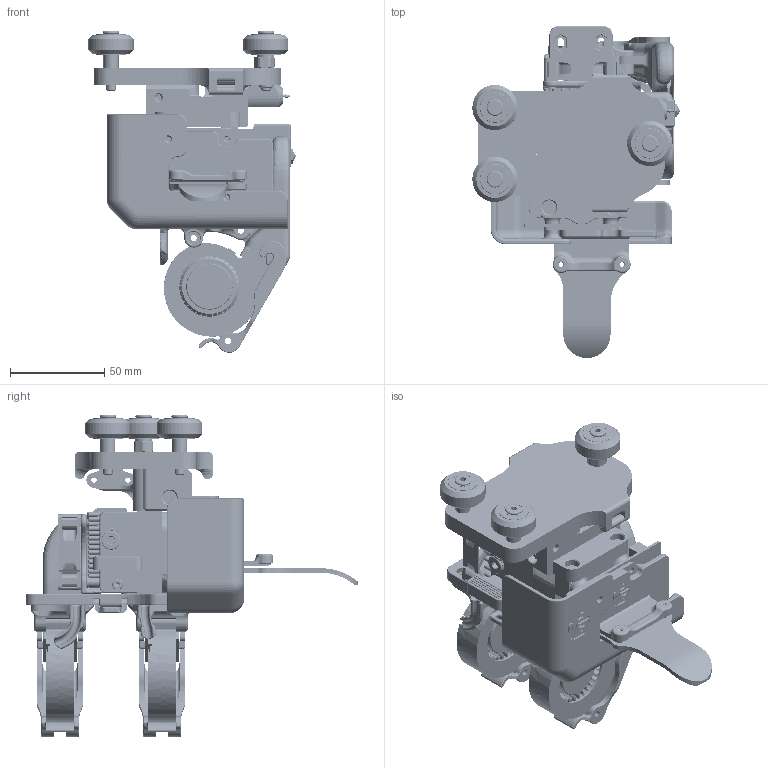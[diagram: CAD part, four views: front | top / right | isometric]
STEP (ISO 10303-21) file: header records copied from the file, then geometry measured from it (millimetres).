
FILE_DESCRIPTION(('CATIA V5 STEP Exchange'),'2;1');
FILE_NAME('E:\Dropbox\3D Printer Fan Duct Designs\1.) Artillery Sidewinder X1\3D Models\5015 Double Ducts\HEMERA MATRIX\Hemera ALL Step Files\Hemera Dual 5015 Duct v1.stp','2022-01-08T20:09:54+00:00',('none'),('none'),'CATIA Version 5 Release 20 SP 1 (IN-10)','CATIA V5 STEP AP214','none');
FILE_SCHEMA(('AUTOMOTIVE_DESIGN { 1 0 10303 214 1 1 1 1 }'));
Products named in the file (34): MATRIX_EXTRUDER; Product2_RUOTE; Separador_PCB_Insertos; Soporte_BL-TOUCH_MOD; Soporte_extraible_extrusor_MOD; BLTOUCH; SCHEDA_HOTEND; FISSACAVO_ASSE_X; COVER_MOTORE_ESTRUSORE; Assieme_Cuscinetto; Vite_M5x30_Svasata; Cuscinetto; Spessore_M5; Dado_M5; Assieme_Cuscinetto_Eccentrico; Dado_M5_Eccentrico; Spessore_M5_Eccentrico; Rondella_M5; SUPPORTO_PER_RUOTE; DOPPIA_VENTOLA_5015_HEMERA_MATRIX; MATRIX_EXTRUDER_Titan_Volcano; STAFFA_ADATTATORE; ADATTATORE_X_DOPPIA_5015; ADATTATORE_X_DOPPIA_5015_SIMMETRICO; ADATTATORE_Z_DOPPIA_5015_HEMERA_MATRIX; Radial-Cooling-Fan-5015-DC12V; STAFFA_5015_MOLLA; SUPPORTO_BLtouch_5015; DUCT_DOPPIA_5015_DX_HEMERA_MATRIX; DUCT_DOPPIA_5015_SX_HEMERA_MATRIX; NF-A4x10_Noctua_40mm; Noctua-NF-A4x10 v1; Noctua nf-a8-pwm fan 80x80x25 v2; DIN7380_M3x16
Assembly tree (41 placements, depth 4):
  MATRIX_EXTRUDER
    Product2_RUOTE
      Separador_PCB_Insertos
      Soporte_BL-TOUCH_MOD
      Soporte_extraible_extrusor_MOD
      BLTOUCH
      SCHEDA_HOTEND
      FISSACAVO_ASSE_X
      COVER_MOTORE_ESTRUSORE
      Assieme_Cuscinetto  x2
        Vite_M5x30_Svasata
        Cuscinetto
        Spessore_M5
        Dado_M5
      Assieme_Cuscinetto_Eccentrico
        Vite_M5x30_Svasata
        Cuscinetto
        Dado_M5
        Dado_M5_Eccentrico
        Spessore_M5_Eccentrico
        Rondella_M5
      SUPPORTO_PER_RUOTE
    DOPPIA_VENTOLA_5015_HEMERA_MATRIX
      MATRIX_EXTRUDER_Titan_Volcano
      STAFFA_ADATTATORE
      ADATTATORE_X_DOPPIA_5015
      ADATTATORE_X_DOPPIA_5015_SIMMETRICO
      ADATTATORE_Z_DOPPIA_5015_HEMERA_MATRIX
      Radial-Cooling-Fan-5015-DC12V  x2
      STAFFA_5015_MOLLA  x2
      SUPPORTO_BLtouch_5015
      DUCT_DOPPIA_5015_DX_HEMERA_MATRIX
      DUCT_DOPPIA_5015_SX_HEMERA_MATRIX
      NF-A4x10_Noctua_40mm
        Noctua-NF-A4x10 v1
        Noctua nf-a8-pwm fan 80x80x25 v2
        DIN7380_M3x16  x3
Bounding box: 109.79 x 175.83 x 170.3 mm (x, y, z)
Volume: 362670.8 mm3; surface area: 251020.9 mm2
Topology: 93 solids, 98 shells, 9065 faces, 23936 edges, 15214 vertices
Faces by surface type: cylinder 3003, plane 2439, bspline 2108, torus 886, cone 460, sphere 96, extrusion 73
Entity records: 283456 total; most frequent: CARTESIAN_POINT 117282, ORIENTED_EDGE 41526, DIRECTION 22983, EDGE_CURVE 20075, VERTEX_POINT 12723, AXIS2_PLACEMENT_3D 10932, EDGE_LOOP 8426, ADVANCED_FACE 7943
